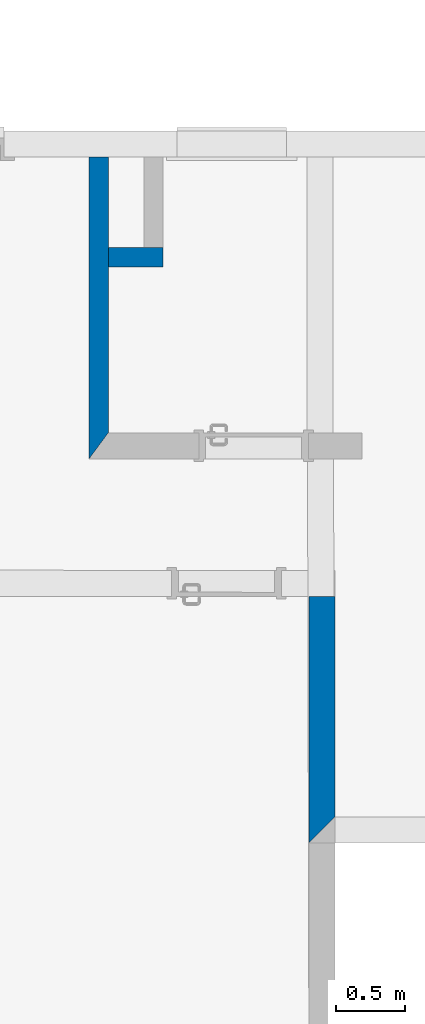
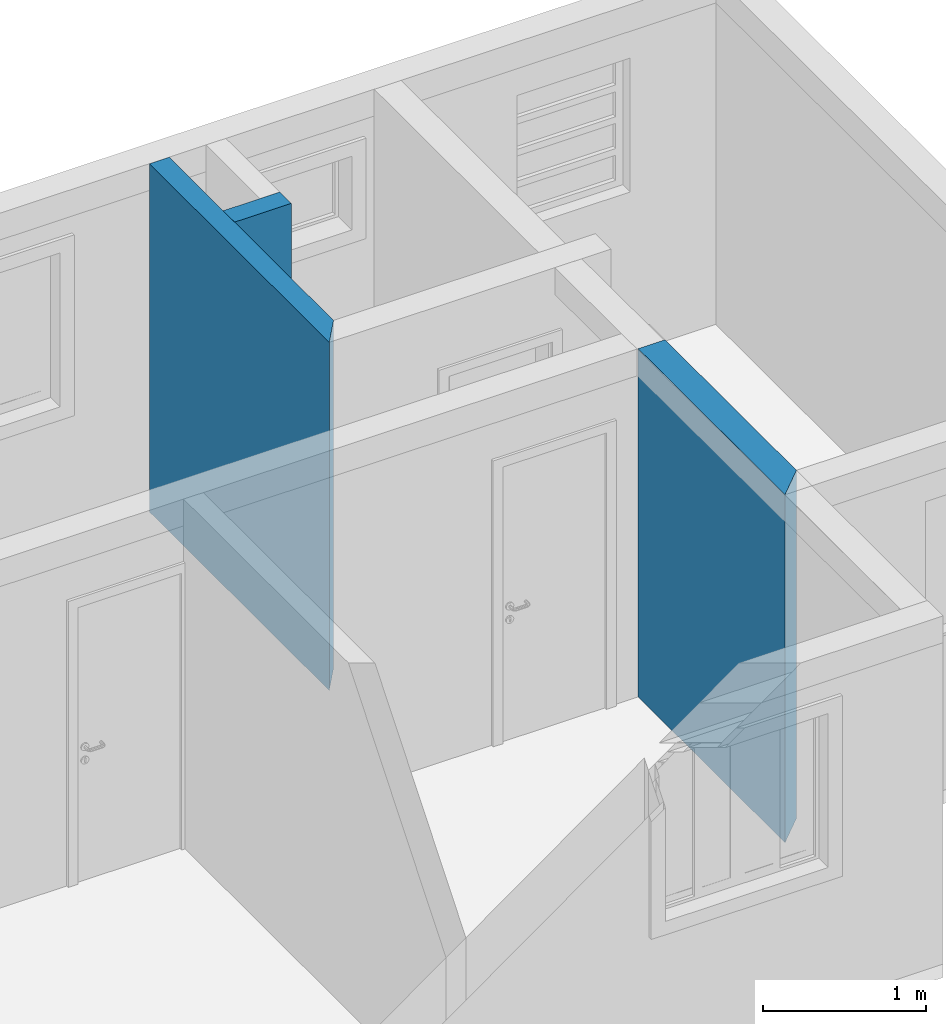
# One storey, part 16 of 43: 3 walls.
"""IFC2X3 building model written with IfcOpenShell, lengths in millimetres."""

from ifc_helpers import new_model, entity, si_unit, converted_unit, derived_unit, money_unit, direction, frame, origin_with_axes, place, context, subcontext, project, spatial, polyline, outline, extrude, material, layer, layer_set, layer_usage, type_object, element, save


model = new_model("IFC2X3")

# Units and contexts
model_context = context("Model", 3, precision=0.01, world=origin_with_axes(), true_north=direction((0.0, 1.0)))
body_context = subcontext(model_context, "Body", "Model", "MODEL_VIEW")
ifc_project = project(units=[si_unit("LENGTHUNIT", "METRE", prefix="MILLI"), si_unit("AREAUNIT", "SQUARE_METRE"), si_unit("VOLUMEUNIT", "CUBIC_METRE"), converted_unit("PLANEANGLEUNIT", "DEGREE", entity("IfcPlaneAngleMeasure", 0.0174532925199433), si_unit("PLANEANGLEUNIT", "RADIAN"), dimensions=[0, 0, 0, 0, 0, 0, 0]), money_unit("USD"), converted_unit("TIMEUNIT", "Year", entity("IfcTimeMeasure", 31557600.0), si_unit("TIMEUNIT", "SECOND"), dimensions=[0, 0, 1, 0, 0, 0, 0]), si_unit("MASSUNIT", "GRAM", prefix="KILO"), si_unit("THERMODYNAMICTEMPERATUREUNIT", "DEGREE_CELSIUS"), si_unit("LUMINOUSINTENSITYUNIT", "LUMEN"), si_unit("ENERGYUNIT", "JOULE", prefix="MEGA"), derived_unit("THERMALCONDUCTANCEUNIT", [(si_unit("POWERUNIT", "WATT"), 1), (si_unit("LENGTHUNIT", "METRE"), -1), (si_unit("THERMODYNAMICTEMPERATUREUNIT", "KELVIN"), -1)]), derived_unit("SPECIFICHEATCAPACITYUNIT", [(si_unit("ENERGYUNIT", "JOULE"), 1), (si_unit("MASSUNIT", "GRAM", prefix="KILO"), -1), (si_unit("THERMODYNAMICTEMPERATUREUNIT", "KELVIN"), -1)]), derived_unit("MASSDENSITYUNIT", [(si_unit("MASSUNIT", "GRAM", prefix="KILO"), 1), (si_unit("VOLUMEUNIT", "CUBIC_METRE"), -1)])], contexts=[model_context])

# Site, building, storey
site_placement = place(None, origin_with_axes())
site = spatial("IfcSite", under=ifc_project, at=site_placement, Name="Local", CompositionType="ELEMENT")
building_placement = place(site_placement, origin_with_axes())
building = spatial("IfcBuilding", under=site, at=building_placement, Name="Construção", CompositionType="ELEMENT")
storey_placement = place(building_placement, origin_with_axes())
storey = spatial("IfcBuildingStorey", under=building, at=storey_placement, Name="Pavimento Tipo", CompositionType="ELEMENT", Elevation=0.0)

# Walls
ifc_material_1 = material(Name="Concreto - Estrutural")
ifc_layer_1 = layer(ifc_material_1, 190.0, ventilated="UNKNOWN")
ifc_layer_set_1 = layer_set([ifc_layer_1], Name="Concreto - Estrutural 190")
ifc_layer_usage_1 = layer_usage(ifc_layer_set_1, "AXIS2", "POSITIVE", -190.0)
wall_type_1 = type_object("IfcWallType", Name="Concreto - Estrutural 190", PredefinedType="NOTDEFINED")
wall_1_placement = place(storey_placement, frame((70079.46944943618, -4770.441890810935, 0.0), z_axis=(0.0, 0.0, 1.0), x_axis=(1.902976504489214e-05, -0.9999999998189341, 0.0)))
element("IfcWallStandardCase", 1, at=wall_1_placement, inside=storey, type_object=wall_type_1, material=ifc_layer_usage_1, Name="Apartamento 4 - Parede-078", context=body_context, shape_type="SweptSolid", body=[
    extrude(outline(polyline([(189.9353097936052, -190.0000000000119), (1987.138596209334, -189.9999999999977), (1797.138596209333, 0.0), (190.0000110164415, 0.0), (189.9353097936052, -190.0000000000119)])), origin_with_axes(), (0.0, 0.0, 1.0), 2600.0),
])
ifc_material_2 = material(Name="Concreto")
ifc_layer_2 = layer(ifc_material_2, 140.0, ventilated="UNKNOWN")
ifc_layer_set_2 = layer_set([ifc_layer_2], Name="Concreto 140")
ifc_layer_usage_2 = layer_usage(ifc_layer_set_2, "AXIS2", "POSITIVE", 0.0)
wall_type_2 = type_object("IfcWallType", Name="Concreto 140", PredefinedType="NOTDEFINED")
wall_2_placement = place(storey_placement, frame((68286.96486497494, -1757.538479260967, 0.0), z_axis=(0.0, 0.0, 1.0), x_axis=(0.0, -1.0, 0.0)))
element("IfcWallStandardCase", 2, at=wall_2_placement, inside=storey, type_object=wall_type_2, material=ifc_layer_usage_2, Name="Apartamento 4 - Parede-010", context=body_context, shape_type="SweptSolid", body=[
    extrude(outline(polyline([(0.0, 0.0), (2200.0, 0.0), (2010.0, 140.0000000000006), (0.0, 140.0000000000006), (0.0, 0.0)])), origin_with_axes(), (0.0, 0.0, 1.0), 2600.0),
])
ifc_layer_usage_3 = layer_usage(ifc_layer_set_2, "AXIS2", "POSITIVE", 0.0)
wall_3_placement = place(storey_placement, frame((68826.96486497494, -2417.538479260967, 0.0), z_axis=(0.0, 0.0, 1.0), x_axis=(-1.0, 0.0, 0.0)))
element("IfcWallStandardCase", 3, at=wall_3_placement, inside=storey, type_object=wall_type_2, material=ifc_layer_usage_3, Name="Apartamento 4 - Parede-011", context=body_context, shape_type="SweptSolid", body=[
    extrude(outline(polyline([(0.0, 0.0), (399.9999999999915, 0.0), (399.9999999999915, 140.0000000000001), (0.0, 140.0000000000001), (0.0, 0.0)])), origin_with_axes(), (0.0, 0.0, 1.0), 2600.0),
])

save(model, "model.ifc")
